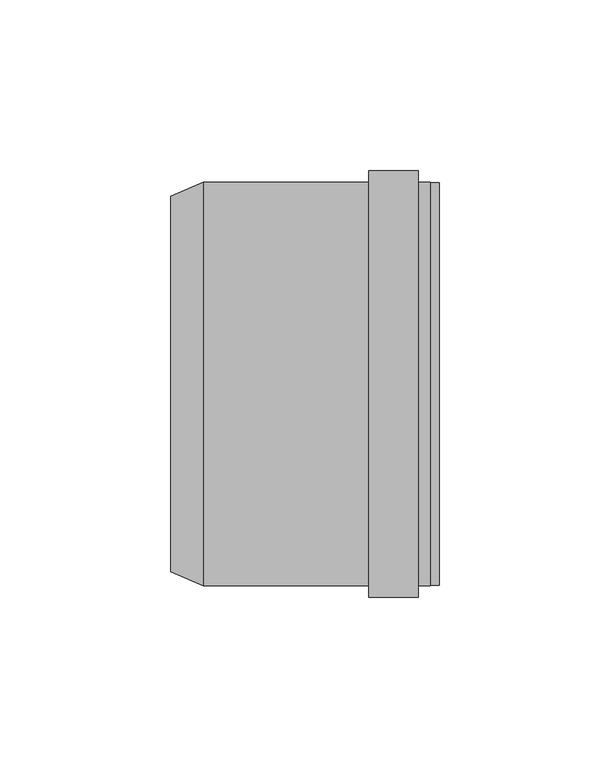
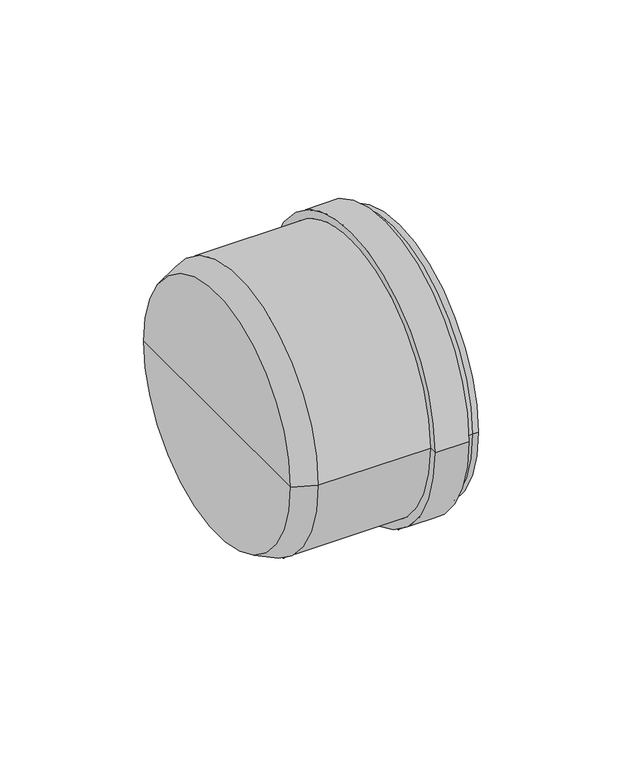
"""IFC4 building model written with IfcOpenShell, lengths in millimetres: pipe fitting geometry, pf_HTM_zatka : pf_HTM_zatka."""

from ifc_helpers import new_model, si_unit, frame, origin, place, context, project, spatial, polyline, circle_curve, source, transform, mapped, element, save
from ifc_brep_helpers import plane_surface, cylinder_surface, revolved_surface, advanced_brep


def pipe_fitting_1bf1d1fd(model_context):
    return source(origin(), model_context, "Body", "AdvancedBrep", [
        advanced_brep(
        [(-76.0, -55.0, 0.0), (-76.0, 55.0, 0.0), (-66.5, 59.1, 0.0), (-66.5, -59.1, 0.0), (-76.0, 0.0, 0.0), (0.0, -59.1, 0.0), (0.0, 59.1, 0.0), (0.0, 0.0, 0.0), (-3.4, -59.1, 0.0), (-3.4, 59.1, 0.0), (-3.4, -62.5, 0.0), (-3.4, 62.5, 0.0), (-17.9, -62.5, 0.0), (-17.9, 62.5, 0.0), (-17.9, -59.1, 0.0), (-17.9, 59.1, 0.0)],
        [
            (0, 1, circle_curve(frame((-76.0, 0.0, 0.0), z_axis=(1.0, 0.0, 0.0), x_axis=(0.0, 1.0, 0.0)), 55.0)),
            (1, 2),
            (2, 3, circle_curve(frame((-66.5, 0.0, 0.0), z_axis=(-1.0, 0.0, 0.0), x_axis=(0.0, 1.0, 0.0)), 59.1)),
            (3, 0),
            (1, 0, circle_curve(frame((-76.0, 0.0, 0.0), z_axis=(1.0, 0.0, 0.0), x_axis=(0.0, 1.0, 0.0)), 55.0)),
            (3, 2, circle_curve(frame((-66.5, 0.0, 0.0), z_axis=(-1.0, 0.0, 0.0), x_axis=(0.0, 1.0, 0.0)), 59.1)),
            (4, 1),
            (0, 4),
            (5, 6, circle_curve(frame((0.0, 0.0, 0.0), z_axis=(1.0, 0.0, 0.0), x_axis=(0.0, 1.0, 0.0)), 59.1)),
            (6, 7),
            (7, 5),
            (6, 5, circle_curve(frame((0.0, 0.0, 0.0), z_axis=(1.0, 0.0, 0.0), x_axis=(0.0, 1.0, 0.0)), 59.1)),
            (8, 9, circle_curve(frame((-3.4, 0.0, 0.0), z_axis=(1.0, 0.0, 0.0), x_axis=(0.0, 1.0, 0.0)), 59.1)),
            (9, 6),
            (5, 8),
            (9, 8, circle_curve(frame((-3.4, 0.0, 0.0), z_axis=(1.0, 0.0, 0.0), x_axis=(0.0, 1.0, 0.0)), 59.1)),
            (10, 11, circle_curve(frame((-3.4, 0.0, 0.0), z_axis=(1.0, 0.0, 0.0), x_axis=(0.0, 1.0, 0.0)), 62.5)),
            (11, 9),
            (8, 10),
            (11, 10, circle_curve(frame((-3.4, 0.0, 0.0), z_axis=(1.0, 0.0, 0.0), x_axis=(0.0, 1.0, 0.0)), 62.5)),
            (12, 13, circle_curve(frame((-17.9, 0.0, 0.0), z_axis=(1.0, 0.0, 0.0), x_axis=(0.0, 1.0, 0.0)), 62.5)),
            (13, 11),
            (10, 12),
            (13, 12, circle_curve(frame((-17.9, 0.0, 0.0), z_axis=(1.0, 0.0, 0.0), x_axis=(0.0, 1.0, 0.0)), 62.5)),
            (14, 15, circle_curve(frame((-17.9, 0.0, 0.0), z_axis=(1.0, 0.0, 0.0), x_axis=(0.0, 1.0, 0.0)), 59.1)),
            (15, 13),
            (12, 14),
            (15, 14, circle_curve(frame((-17.9, 0.0, 0.0), z_axis=(1.0, 0.0, 0.0), x_axis=(0.0, 1.0, 0.0)), 59.1)),
            (2, 15),
            (14, 3),
        ],
        [
            revolved_surface(polyline([(-66.5, 59.1, 0.0), (-76.0, 55.0, 0.0)]), (-76.0, 0.0, 0.0), (-1.0, 0.0, 0.0)),
            plane_surface(frame((-76.0, 0.0, 0.0), z_axis=(-1.0, 0.0, 0.0), x_axis=(0.0, 1.0, 0.0))),
            plane_surface(frame((0.0, 0.0, 0.0), z_axis=(1.0, 0.0, 0.0), x_axis=(0.0, 1.0, 0.0))),
            cylinder_surface(frame((-76.0, 0.0, 0.0), z_axis=(-1.0, 0.0, 0.0), x_axis=(0.0, 1.0, 0.0)), 59.1),
            plane_surface(frame((-3.4, 0.0, 0.0), z_axis=(1.0, 0.0, 0.0), x_axis=(0.0, 1.0, 0.0))),
            cylinder_surface(frame((-76.0, 0.0, 0.0), z_axis=(-1.0, 0.0, 0.0), x_axis=(0.0, 1.0, 0.0)), 62.5),
            plane_surface(frame((-17.9, 0.0, 0.0), z_axis=(-1.0, 0.0, 0.0), x_axis=(0.0, 1.0, 0.0))),
        ],
        [
            (0, [[1, 2, 3, 4]]),
            (0, [[5, -4, 6, -2]]),
            (1, [[7, -1, 8]]),
            (1, [[-8, -5, -7]]),
            (2, [[9, 10, 11]]),
            (2, [[12, -11, -10]]),
            (3, [[13, 14, -9, 15]]),
            (3, [[16, -15, -12, -14]]),
            (4, [[17, 18, -13, 19]]),
            (4, [[20, -19, -16, -18]]),
            (5, [[21, 22, -17, 23]]),
            (5, [[24, -23, -20, -22]]),
            (6, [[25, 26, -21, 27]]),
            (6, [[28, -27, -24, -26]]),
            (3, [[-3, 29, -25, 30]]),
            (3, [[-6, -30, -28, -29]]),
        ],
    ),
        advanced_brep(
        [(-44.0, 0.0, 0.0), (-44.0, 55.0, 0.0), (-44.0, -55.0, 0.0), (2.7, -58.91, 0.0), (2.7, 58.91, 0.0), (2.7, 0.0, 0.0), (0.0, -58.91, 0.0), (0.0, 58.91, 0.0), (0.0, -56.21, 0.0), (0.0, 56.21, 0.0), (-40.0, -56.21, 0.0), (-40.0, 56.21, 0.0)],
        [
            (0, 1),
            (1, 2, circle_curve(frame((-44.0, 0.0, 0.0), z_axis=(-1.0, 0.0, 0.0), x_axis=(0.0, 1.0, 0.0)), 55.0)),
            (2, 0),
            (2, 1, circle_curve(frame((-44.0, 0.0, 0.0), z_axis=(-1.0, 0.0, 0.0), x_axis=(0.0, 1.0, 0.0)), 55.0)),
            (3, 4, circle_curve(frame((2.7, 0.0, 0.0), z_axis=(1.0, 0.0, 0.0), x_axis=(0.0, 1.0, 0.0)), 58.91)),
            (4, 5),
            (5, 3),
            (4, 3, circle_curve(frame((2.7, 0.0, 0.0), z_axis=(1.0, 0.0, 0.0), x_axis=(0.0, 1.0, 0.0)), 58.91)),
            (6, 7, circle_curve(frame((0.0, 0.0, 0.0), z_axis=(1.0, 0.0, 0.0), x_axis=(0.0, 1.0, 0.0)), 58.91)),
            (7, 4),
            (3, 6),
            (7, 6, circle_curve(frame((0.0, 0.0, 0.0), z_axis=(1.0, 0.0, 0.0), x_axis=(0.0, 1.0, 0.0)), 58.91)),
            (8, 9, circle_curve(frame((0.0, 0.0, 0.0), z_axis=(1.0, 0.0, 0.0), x_axis=(0.0, 1.0, 0.0)), 56.21)),
            (9, 7),
            (6, 8),
            (9, 8, circle_curve(frame((0.0, 0.0, 0.0), z_axis=(1.0, 0.0, 0.0), x_axis=(0.0, 1.0, 0.0)), 56.21)),
            (10, 11, circle_curve(frame((-40.0, 0.0, 0.0), z_axis=(1.0, 0.0, 0.0), x_axis=(0.0, 1.0, 0.0)), 56.21)),
            (11, 9),
            (8, 10),
            (11, 10, circle_curve(frame((-40.0, 0.0, 0.0), z_axis=(1.0, 0.0, 0.0), x_axis=(0.0, 1.0, 0.0)), 56.21)),
            (1, 11),
            (10, 2),
        ],
        [
            plane_surface(frame((-44.0, 0.0, 0.0), z_axis=(-1.0, 0.0, 0.0), x_axis=(0.0, 1.0, 0.0))),
            plane_surface(frame((2.7, 0.0, 0.0), z_axis=(1.0, 0.0, 0.0), x_axis=(0.0, 1.0, 0.0))),
            cylinder_surface(frame((-43.0241529, 0.0, 0.0), z_axis=(-1.0, 0.0, 0.0), x_axis=(0.0, 1.0, 0.0)), 58.91),
            plane_surface(frame((0.0, 0.0, 0.0), z_axis=(-1.0, 0.0, 0.0), x_axis=(0.0, 1.0, 0.0))),
            cylinder_surface(frame((-43.0241529, 0.0, 0.0), z_axis=(-1.0, 0.0, 0.0), x_axis=(0.0, 1.0, 0.0)), 56.21),
            revolved_surface(polyline([(-40.0, 56.21, 0.0), (-44.0, 55.0, 0.0)]), (-43.0241529, 0.0, 0.0), (-1.0, 0.0, 0.0)),
        ],
        [
            (0, [[1, 2, 3]]),
            (0, [[-3, 4, -1]]),
            (1, [[5, 6, 7]]),
            (1, [[8, -7, -6]]),
            (2, [[9, 10, -5, 11]]),
            (2, [[12, -11, -8, -10]]),
            (3, [[13, 14, -9, 15]]),
            (3, [[16, -15, -12, -14]]),
            (4, [[17, 18, -13, 19]]),
            (4, [[20, -19, -16, -18]]),
            (5, [[-2, 21, -17, 22]]),
            (5, [[-4, -22, -20, -21]]),
        ],
    ),
    ])


if __name__ == "__main__":
    model = new_model("IFC4")
    model_context = context("Model", 3, world=origin())
    ifc_project = project(units=[si_unit("LENGTHUNIT", "METRE", prefix="MILLI")], contexts=[model_context])
    site = spatial("IfcSite", under=ifc_project)
    building = spatial("IfcBuilding", under=site)
    placement = place(None, origin())
    pipe_fitting_shape = pipe_fitting_1bf1d1fd(model_context)
    element("IfcPipeFitting", 1, ObjectType="pf_HTM_zatka : pf_HTM_zatka", at=placement, inside=building, context=model_context, shape_type="MappedRepresentation", body=[
        mapped(pipe_fitting_shape, transform((0.0, 0.0, 0.0), x_axis=(1.0, 0.0, 0.0), y_axis=(0.0, 1.0, 0.0), z_axis=(0.0, 0.0, 1.0))),
    ])
    save(model, "model.ifc")
